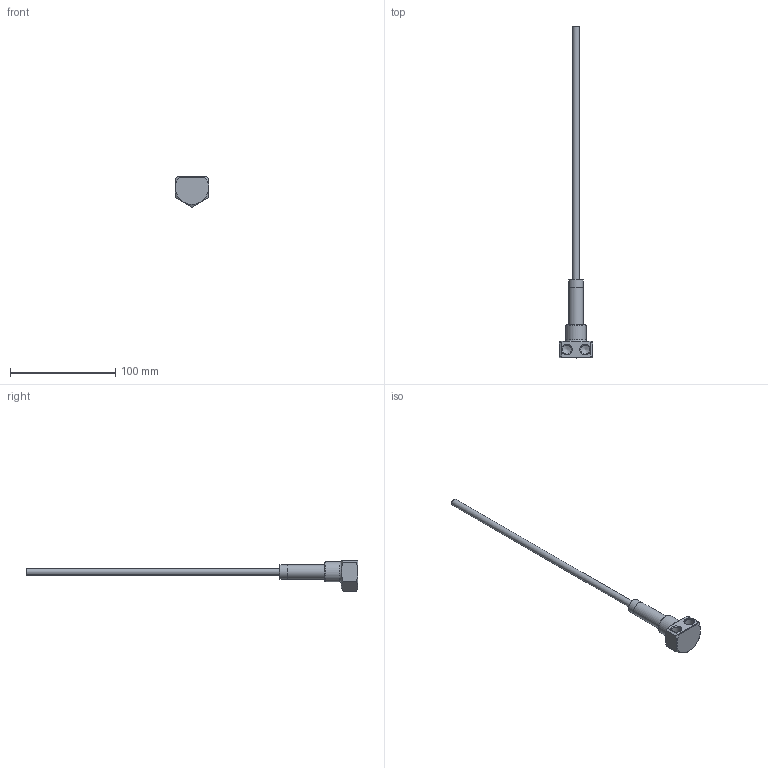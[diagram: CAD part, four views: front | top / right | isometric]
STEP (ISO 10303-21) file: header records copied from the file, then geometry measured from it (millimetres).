
FILE_DESCRIPTION(/* description */ (''),/* implementation_level */ '2;1');
FILE_NAME(/* name */ 'C:/Users/drich/Desktop/ET1418 v1.step',/* time_stamp */ '2020-01-15T19:50:14-06:00',/* author */ (''),/* organization */ (''),/* preprocessor_version */ 'ST-DEVELOPER v18',/* originating_system */ 'Autodesk Translation Framework v8.12.0.6',/* authorisation */ '');
FILE_SCHEMA (('AUTOMOTIVE_DESIGN { 1 0 10303 214 3 1 1 }'));
Length unit declared in the file: inch
Products named in the file (5): ET1418; ET1418H; ET1418 INSERT; SSPN14-2; HF250T-12
Assembly tree (4 placements, depth 3):
  ET1418
    ET1418H
      ET1418 INSERT
    SSPN14-2
    HF250T-12
Bounding box: 31.75 x 315.72 x 28.74 mm (x, y, z)
Volume: 17905.9 mm3; surface area: 22160.1 mm2
Topology: 4 solids, 4 shells, 111 faces, 303 edges, 202 vertices
Faces by surface type: cylinder 48, plane 28, cone 17, bspline 9, torus 9
Full cylindrical faces by diameter (mm): 5.842 x1, 6.35 x1, 6.909 x5, 7.818 x1, 7.938 x4, 7.976 x1, 8.707 x2, 9.246 x1, 10.998 x1, 11.062 x1, 11.668 x1, 13.665 x2, 13.716 x1, 19.05 x1
Entity records: 4975 total; most frequent: CARTESIAN_POINT 2152, ORIENTED_EDGE 600, DIRECTION 534, EDGE_CURVE 300, AXIS2_PLACEMENT_3D 232, VERTEX_POINT 202, EDGE_LOOP 126, FACE_OUTER_BOUND 111
